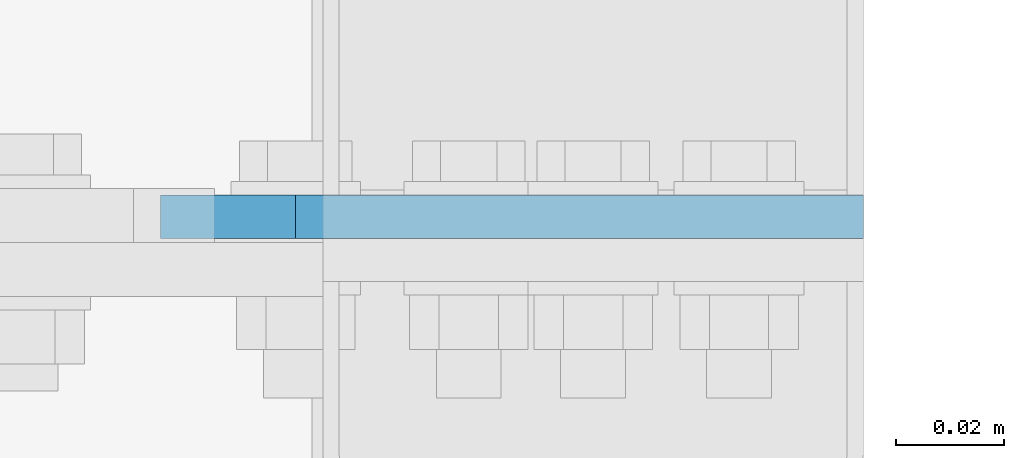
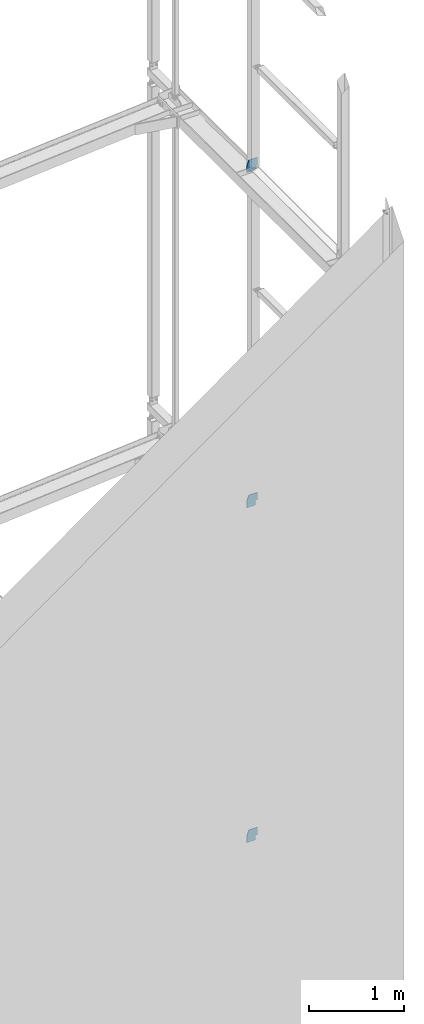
# One storey, part 175 of 271: 3 plates, 3 elements without a shape of their own.
"""IFC2X3 building model written with IfcOpenShell, lengths in millimetres."""

from ifc_helpers import new_model, si_unit, frame, origin_with_axes, place, context, subcontext, project, spatial, polyline, outline, extrude, material, type_object, element, aggregate, save


model = new_model("IFC2X3")

# Units and contexts
model_context = context("Model", 3, precision=1e-05, world=origin_with_axes())
body_context = subcontext(model_context, "Body", "Model", "MODEL_VIEW")
ifc_project = project(units=[si_unit("LENGTHUNIT", "METRE", prefix="MILLI"), si_unit("AREAUNIT", "SQUARE_METRE"), si_unit("VOLUMEUNIT", "CUBIC_METRE"), si_unit("MASSUNIT", "GRAM", prefix="KILO"), si_unit("TIMEUNIT", "SECOND"), si_unit("PLANEANGLEUNIT", "RADIAN"), si_unit("SOLIDANGLEUNIT", "STERADIAN"), si_unit("THERMODYNAMICTEMPERATUREUNIT", "DEGREE_CELSIUS"), si_unit("LUMINOUSINTENSITYUNIT", "LUMEN")], contexts=[model_context])

# Site, building, storey
site_placement = place(None, origin_with_axes())
site = spatial("IfcSite", under=ifc_project, at=site_placement, Name="Undefined", CompositionType="ELEMENT")
building_placement = place(site_placement, origin_with_axes())
building = spatial("IfcBuilding", under=site, at=building_placement, Name="Undefined", CompositionType="ELEMENT")
storey_placement = place(building_placement, origin_with_axes())
storey = spatial("IfcBuildingStorey", under=building, at=storey_placement, Name="Undefined", CompositionType="ELEMENT", Elevation=0.0)

# Assembly, plate
assembly_1_placement = place(storey_placement, origin_with_axes())
assembly_1 = element("IfcElementAssembly", 1, at=assembly_1_placement, inside=storey, AssemblyPlace="NOTDEFINED", PredefinedType="RIGID_FRAME")
ifc_material = material(Name="STEEL/S355JR")
plate_type = type_object("IfcPlateType", Name="BL8*130", PredefinedType="NOTDEFINED")
plate_1_placement = place(assembly_1_placement, frame((12578.3756870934, 2799.05211980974, 1531.84999990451), z_axis=(0.0, -1.0, 0.0), x_axis=(0.0, 0.0, -1.0)))
plate_1 = element("IfcPlate", 2, at=plate_1_placement, type_object=plate_type, material=ifc_material, Name="BLACHA", ObjectType="BL8*130", context=body_context, shape_type="SweptSolid", body=[
    extrude(outline(polyline([(0.0, 25.0), (70.0, -8.66862137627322e-13), (155.0, -2.06057393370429e-12), (155.0, 105.0), (94.9999999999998, 105.0), (94.9999999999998, 130.0), (-3.5527136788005e-14, 130.0), (0.0, 25.0)])), frame((0.0, 0.0, -4.0), z_axis=(0.0, 0.0, 1.0), x_axis=(1.0, 0.0, 0.0)), (0.0, 0.0, 1.0), 8.0),
])
aggregate(assembly_1, [plate_1])

assembly_2_placement = place(storey_placement, origin_with_axes())
assembly_2 = element("IfcElementAssembly", 3, at=assembly_2_placement, inside=storey, AssemblyPlace="NOTDEFINED", PredefinedType="RIGID_FRAME")
plate_2_placement = place(assembly_2_placement, frame((12578.3756870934, 2799.05211980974, 5851.84999990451), z_axis=(0.0, -1.0, 0.0), x_axis=(0.0, 0.0, -1.0)))
plate_2 = element("IfcPlate", 4, at=plate_2_placement, type_object=plate_type, material=ifc_material, Name="BLACHA", ObjectType="BL8*130", context=body_context, shape_type="SweptSolid", body=[
    extrude(outline(polyline([(0.0, 25.0), (70.0, -8.66862137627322e-13), (155.0, -2.06057393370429e-12), (155.0, 105.0), (94.9999999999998, 105.0), (94.9999999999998, 130.0), (-3.5527136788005e-14, 130.0), (0.0, 25.0)])), frame((0.0, 0.0, -4.0), z_axis=(0.0, 0.0, 1.0), x_axis=(1.0, 0.0, 0.0)), (0.0, 0.0, 1.0), 8.0),
])
aggregate(assembly_2, [plate_2])

assembly_3_placement = place(storey_placement, origin_with_axes())
assembly_3 = element("IfcElementAssembly", 5, at=assembly_3_placement, inside=storey, AssemblyPlace="NOTDEFINED", PredefinedType="RIGID_FRAME")
plate_3_placement = place(assembly_3_placement, frame((12578.3756870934, 2799.05211980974, 10171.8499999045), z_axis=(0.0, -1.0, 0.0), x_axis=(0.0, 0.0, -1.0)))
plate_3 = element("IfcPlate", 6, at=plate_3_placement, type_object=plate_type, material=ifc_material, Name="BLACHA", ObjectType="BL8*130", context=body_context, shape_type="SweptSolid", body=[
    extrude(outline(polyline([(0.0, 25.0), (70.0, -8.66862137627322e-13), (155.0, -2.06057393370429e-12), (155.0, 105.0), (94.9999999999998, 105.0), (94.9999999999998, 130.0), (-3.5527136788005e-14, 130.0), (0.0, 25.0)])), frame((0.0, 0.0, -4.0), z_axis=(0.0, 0.0, 1.0), x_axis=(1.0, 0.0, 0.0)), (0.0, 0.0, 1.0), 8.0),
])
aggregate(assembly_3, [plate_3])

save(model, "model.ifc")
